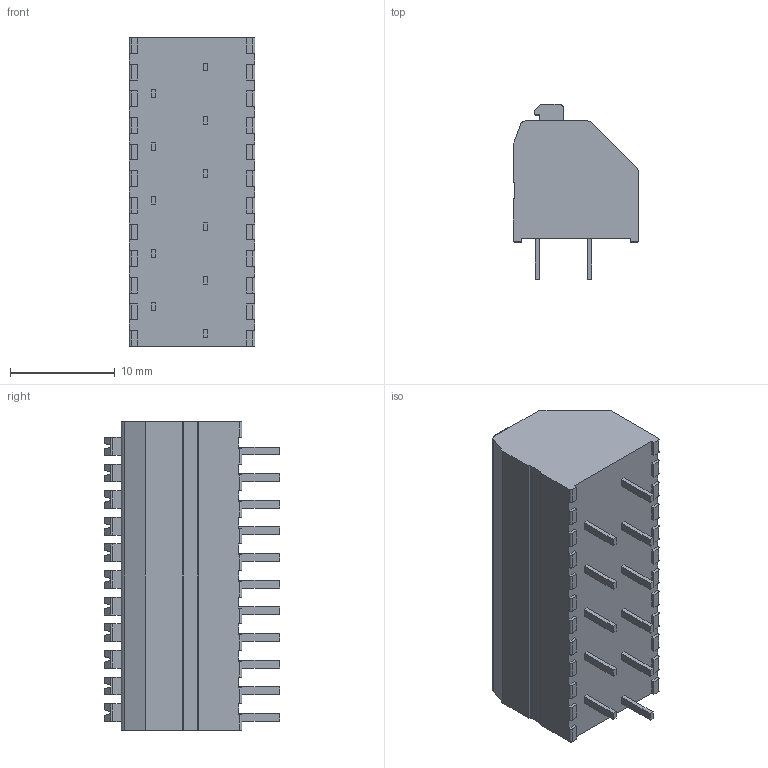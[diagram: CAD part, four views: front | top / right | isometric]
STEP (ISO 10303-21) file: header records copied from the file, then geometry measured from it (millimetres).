
FILE_DESCRIPTION(/* description */ ('STEP AP214'),/* implementation_level */ '2;1');
FILE_NAME(/* name */ '250-1411',/* time_stamp */ '2022-10-03T17:46:51+02:00',/* author */ ('License CC BY-ND 4.0'),/* organization */ ('CADENAS'),/* preprocessor_version */ 'ST-DEVELOPER v18.102',/* originating_system */ 'PARTsolutions',/* authorisation */ ' ');
FILE_SCHEMA (('AUTOMOTIVE_DESIGN {1 0 10303 214 3 1 1}'));
Length unit declared in the file: millimetre
Products named in the file (1): 250-1411
Bounding box: 12 x 16.7 x 29.44 mm (x, y, z)
Volume: 3579.9 mm3; surface area: 1918.6 mm2
Topology: 1 solids, 1 shells, 505 faces, 1377 edges, 896 vertices
Faces by surface type: plane 388, cylinder 95, cone 22
Entity records: 15809 total; most frequent: CARTESIAN_POINT 2779, ORIENTED_EDGE 2754, DIRECTION 2645, EDGE_CURVE 1377, LINE 1121, VECTOR 1121, VERTEX_POINT 896, AXIS2_PLACEMENT_3D 762
